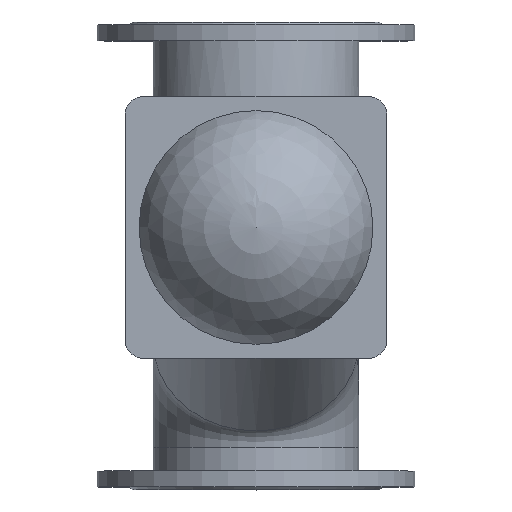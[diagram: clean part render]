
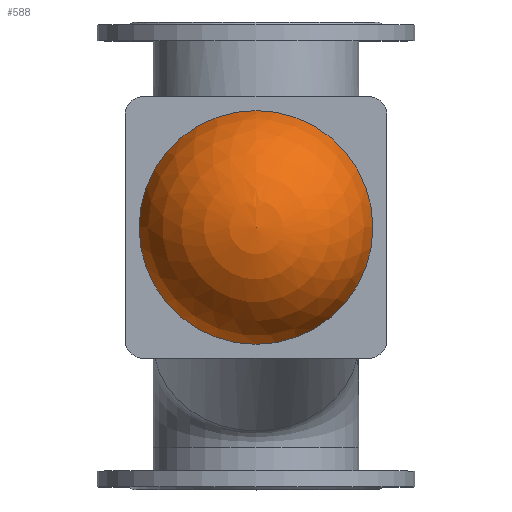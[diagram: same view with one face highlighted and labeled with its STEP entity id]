
A CAD part, top view. The second image highlights one B-rep face of the part: STEP entity #588.
In plain terms, the highlighted spherical face has radius 128.125 mm.
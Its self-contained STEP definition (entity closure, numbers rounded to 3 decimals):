
#588=ADVANCED_FACE('',(#1364),#1366,.T.);
#1364=FACE_OUTER_BOUND('',#1365,.T.);
#1365=EDGE_LOOP('',(#1693));
#1366=SPHERICAL_SURFACE('',#1367,128.125);
#1367=AXIS2_PLACEMENT_3D('',#1368,#1369,#1370);
#1368=CARTESIAN_POINT('',(0.,30.,269.875));
#1369=DIRECTION('',(0.,0.,-1.));
#1370=DIRECTION('',(0.,1.,0.));
#1693=ORIENTED_EDGE('',*,*,#1858,.T.);
#1858=EDGE_CURVE('',#2100,#2100,#2101,.F.);
#2100=VERTEX_POINT('',#3088);
#2101=CIRCLE('',#3089,125.);
#3088=CARTESIAN_POINT('',(0.,155.,298.));
#3089=AXIS2_PLACEMENT_3D('',#3090,#3091,#3092);
#3090=CARTESIAN_POINT('',(0.,30.,298.));
#3091=DIRECTION('',(0.,0.,-1.));
#3092=DIRECTION('',(0.,1.,0.));
